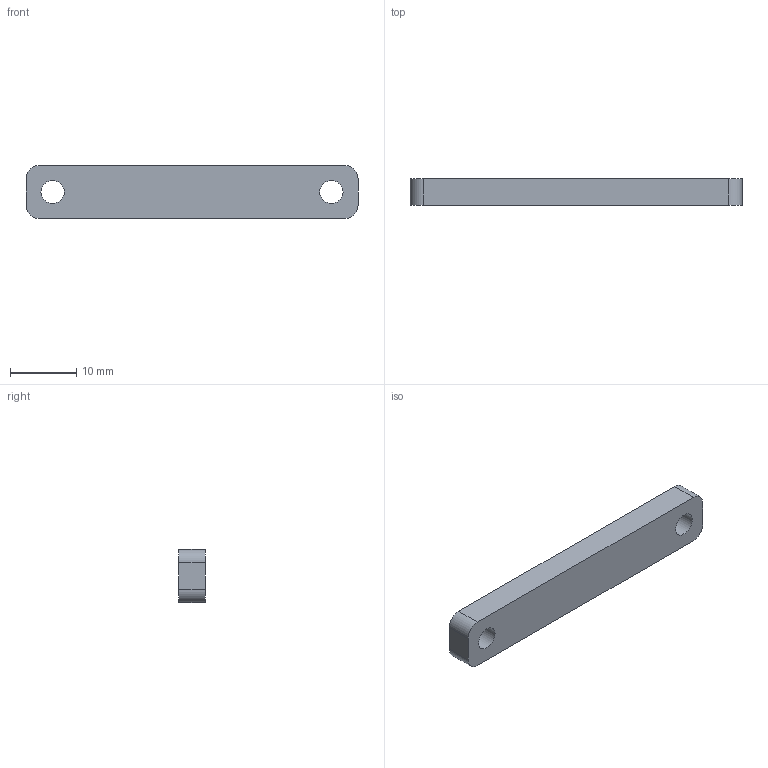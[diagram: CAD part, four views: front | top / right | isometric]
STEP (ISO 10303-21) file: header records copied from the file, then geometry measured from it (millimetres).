
FILE_DESCRIPTION(('Open CASCADE Model'),'2;1');
FILE_NAME('Open CASCADE Shape Model','2026-10-13T11:47:37',('Author'),( 'Open CASCADE'),'Open CASCADE STEP processor 7.8','Open CASCADE 7.8' ,'Unknown');
FILE_SCHEMA(('AUTOMOTIVE_DESIGN { 1 0 10303 214 1 1 1 1 }'));
Length unit declared in the file: millimetre
Products named in the file (1): Open CASCADE STEP translator 7.8 56
Bounding box: 50 x 4 x 8 mm (x, y, z)
Volume: 1509.3 mm3; surface area: 1292.9 mm2
Topology: 1 solids, 1 shells, 12 faces, 30 edges, 20 vertices
Faces by surface type: plane 6, cylinder 6
Full cylindrical faces by diameter (mm): 3.5 x2
Entity records: 792 total; most frequent: CARTESIAN_POINT 159, DIRECTION 122, LINE 66, VECTOR 66, ORIENTED_EDGE 60, PCURVE 60, DEFINITIONAL_REPRESENTATION 60, EDGE_CURVE 30
